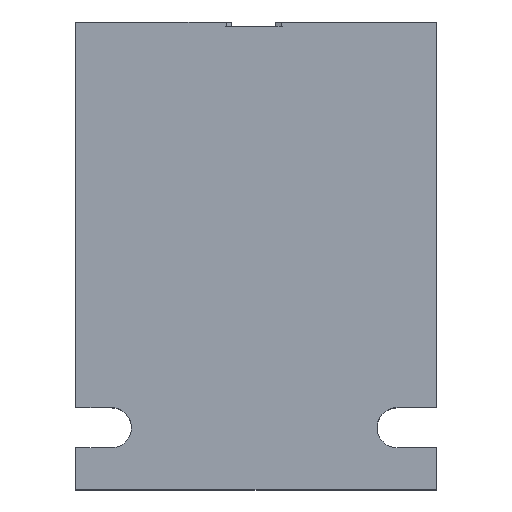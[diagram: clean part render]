
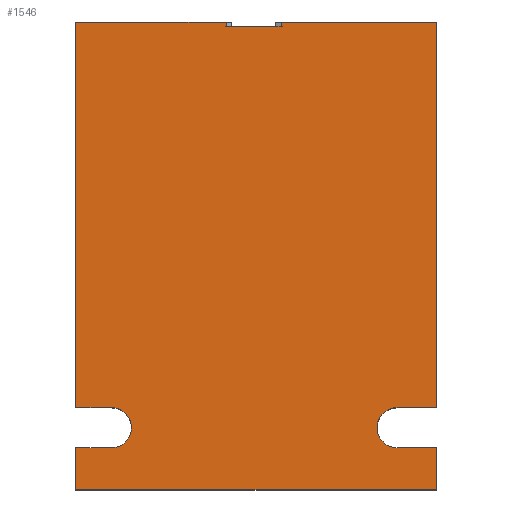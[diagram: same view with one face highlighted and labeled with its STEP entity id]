
A CAD part, top view. The second image highlights one B-rep face of the part: STEP entity #1546.
In plain terms, the highlighted planar face has unit normal (0, 0, 1).
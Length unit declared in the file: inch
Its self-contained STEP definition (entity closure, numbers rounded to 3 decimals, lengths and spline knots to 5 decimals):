
#9=DIRECTION('',(-1.,0.,0.));
#10=VECTOR('',#9,1.08667);
#11=CARTESIAN_POINT('',(2.524,0.,0.));
#12=LINE('',#11,#10);
#13=DIRECTION('',(-1.,0.,0.));
#14=VECTOR('',#13,1.05267);
#15=CARTESIAN_POINT('',(1.05267,0.,0.));
#16=LINE('',#15,#14);
#45=DIRECTION('',(1.,0.,0.));
#46=VECTOR('',#45,0.25);
#47=CARTESIAN_POINT('',(0.,-2.9805,0.));
#48=LINE('',#47,#46);
#49=CARTESIAN_POINT('',(0.25,-2.84,0.));
#50=DIRECTION('',(0.,0.,1.));
#51=DIRECTION('',(0.,-1.,0.));
#52=AXIS2_PLACEMENT_3D('',#49,#50,#51);
#54=DIRECTION('',(1.,0.,0.));
#55=VECTOR('',#54,0.25);
#56=CARTESIAN_POINT('',(0.,-2.6995,0.));
#57=LINE('',#56,#55);
#58=DIRECTION('',(0.,-1.,0.));
#59=VECTOR('',#58,0.031);
#60=CARTESIAN_POINT('',(1.05267,0.,0.));
#61=LINE('',#60,#59);
#62=DIRECTION('',(1.,0.,0.));
#63=VECTOR('',#62,0.38467);
#64=CARTESIAN_POINT('',(1.05267,-0.031,0.));
#65=LINE('',#64,#63);
#66=DIRECTION('',(0.,1.,0.));
#67=VECTOR('',#66,0.031);
#68=CARTESIAN_POINT('',(1.43733,-0.031,0.));
#69=LINE('',#68,#67);
#70=DIRECTION('',(0.,-1.,0.));
#71=VECTOR('',#70,2.6995);
#72=CARTESIAN_POINT('',(2.524,0.,0.));
#73=LINE('',#72,#71);
#74=DIRECTION('',(-1.,0.,0.));
#75=VECTOR('',#74,0.274);
#76=CARTESIAN_POINT('',(2.524,-2.6995,0.));
#77=LINE('',#76,#75);
#78=CARTESIAN_POINT('',(2.25,-2.84,0.));
#79=DIRECTION('',(0.,0.,1.));
#80=DIRECTION('',(0.,1.,0.));
#81=AXIS2_PLACEMENT_3D('',#78,#79,#80);
#83=DIRECTION('',(-1.,0.,0.));
#84=VECTOR('',#83,0.274);
#85=CARTESIAN_POINT('',(2.524,-2.9805,0.));
#86=LINE('',#85,#84);
#87=DIRECTION('',(0.,-1.,0.));
#88=VECTOR('',#87,0.2935);
#89=CARTESIAN_POINT('',(2.524,-2.9805,0.));
#90=LINE('',#89,#88);
#105=DIRECTION('',(0.,-1.,0.));
#106=VECTOR('',#105,0.2935);
#107=CARTESIAN_POINT('',(0.,-2.9805,0.));
#108=LINE('',#107,#106);
#113=DIRECTION('',(0.,-1.,0.));
#114=VECTOR('',#113,2.6995);
#115=CARTESIAN_POINT('',(0.,0.,0.));
#116=LINE('',#115,#114);
#557=DIRECTION('',(-1.,0.,0.));
#558=VECTOR('',#557,2.524);
#559=CARTESIAN_POINT('',(2.524,-3.274,0.));
#560=LINE('',#559,#558);
#1169=CARTESIAN_POINT('',(0.,0.,0.));
#1171=VERTEX_POINT('',#1169);
#1174=CARTESIAN_POINT('',(2.524,0.,0.));
#1176=VERTEX_POINT('',#1174);
#1177=CARTESIAN_POINT('',(0.,-3.274,0.));
#1179=VERTEX_POINT('',#1177);
#1183=CARTESIAN_POINT('',(2.524,-3.274,0.));
#1184=VERTEX_POINT('',#1183);
#1353=CARTESIAN_POINT('',(0.,-2.9805,0.));
#1355=VERTEX_POINT('',#1353);
#1357=CARTESIAN_POINT('',(0.,-2.6995,0.));
#1359=VERTEX_POINT('',#1357);
#1373=CARTESIAN_POINT('',(2.524,-2.6995,0.));
#1374=VERTEX_POINT('',#1373);
#1375=CARTESIAN_POINT('',(2.524,-2.9805,0.));
#1376=VERTEX_POINT('',#1375);
#1377=CARTESIAN_POINT('',(0.25,-2.9805,0.));
#1378=VERTEX_POINT('',#1377);
#1379=CARTESIAN_POINT('',(0.25,-2.6995,0.));
#1380=VERTEX_POINT('',#1379);
#1381=CARTESIAN_POINT('',(2.25,-2.6995,0.));
#1382=VERTEX_POINT('',#1381);
#1383=CARTESIAN_POINT('',(2.25,-2.9805,0.));
#1384=VERTEX_POINT('',#1383);
#1433=CARTESIAN_POINT('',(1.05267,-0.031,0.));
#1434=CARTESIAN_POINT('',(1.43733,-0.031,0.));
#1435=VERTEX_POINT('',#1433);
#1436=VERTEX_POINT('',#1434);
#1437=CARTESIAN_POINT('',(1.05267,0.,0.));
#1438=VERTEX_POINT('',#1437);
#1441=CARTESIAN_POINT('',(1.43733,0.,0.));
#1442=VERTEX_POINT('',#1441);
#1511=CARTESIAN_POINT('',(2.524,0.,0.));
#1512=DIRECTION('',(0.,0.,1.));
#1513=DIRECTION('',(-1.,0.,0.));
#1514=AXIS2_PLACEMENT_3D('',#1511,#1512,#1513);
#1515=PLANE('',#1514);
#1517=ORIENTED_EDGE('',*,*,#1516,.T.);
#1519=ORIENTED_EDGE('',*,*,#1518,.T.);
#1521=ORIENTED_EDGE('',*,*,#1520,.F.);
#1523=ORIENTED_EDGE('',*,*,#1522,.F.);
#1524=ORIENTED_EDGE('',*,*,#1472,.F.);
#1525=ORIENTED_EDGE('',*,*,#1503,.T.);
#1527=ORIENTED_EDGE('',*,*,#1526,.T.);
#1528=ORIENTED_EDGE('',*,*,#1487,.T.);
#1529=ORIENTED_EDGE('',*,*,#1460,.F.);
#1531=ORIENTED_EDGE('',*,*,#1530,.T.);
#1533=ORIENTED_EDGE('',*,*,#1532,.T.);
#1535=ORIENTED_EDGE('',*,*,#1534,.T.);
#1537=ORIENTED_EDGE('',*,*,#1536,.F.);
#1539=ORIENTED_EDGE('',*,*,#1538,.T.);
#1541=ORIENTED_EDGE('',*,*,#1540,.T.);
#1543=ORIENTED_EDGE('',*,*,#1542,.F.);
#1544=EDGE_LOOP('',(#1517,#1519,#1521,#1523,#1524,#1525,#1527,#1528,#1529,#1531,
#1533,#1535,#1537,#1539,#1541,#1543));
#1545=FACE_OUTER_BOUND('',#1544,.F.);
#1546=ADVANCED_FACE('',(#1545),#1515,.T.);
#53=CIRCLE('',#52,0.1405);
#82=CIRCLE('',#81,0.1405);
#1460=EDGE_CURVE('',#1176,#1442,#12,.T.);
#1472=EDGE_CURVE('',#1438,#1171,#16,.T.);
#1487=EDGE_CURVE('',#1436,#1442,#69,.T.);
#1503=EDGE_CURVE('',#1438,#1435,#61,.T.);
#1516=EDGE_CURVE('',#1355,#1378,#48,.T.);
#1518=EDGE_CURVE('',#1378,#1380,#53,.T.);
#1520=EDGE_CURVE('',#1359,#1380,#57,.T.);
#1522=EDGE_CURVE('',#1171,#1359,#116,.T.);
#1526=EDGE_CURVE('',#1435,#1436,#65,.T.);
#1530=EDGE_CURVE('',#1176,#1374,#73,.T.);
#1532=EDGE_CURVE('',#1374,#1382,#77,.T.);
#1534=EDGE_CURVE('',#1382,#1384,#82,.T.);
#1536=EDGE_CURVE('',#1376,#1384,#86,.T.);
#1538=EDGE_CURVE('',#1376,#1184,#90,.T.);
#1540=EDGE_CURVE('',#1184,#1179,#560,.T.);
#1542=EDGE_CURVE('',#1355,#1179,#108,.T.);
